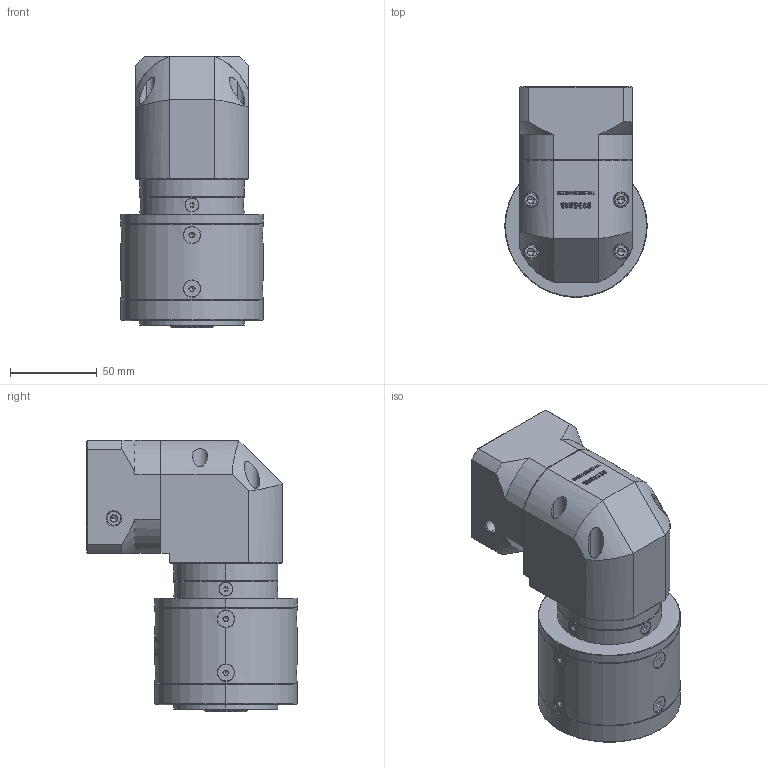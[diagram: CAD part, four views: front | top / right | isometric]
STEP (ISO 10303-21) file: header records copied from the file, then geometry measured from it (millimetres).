
FILE_DESCRIPTION (( 'STEP AP214' ), '1' );
FILE_NAME ('ZER80-K15-L2-14-60-75-M6.step', '2022-09-12T14:50:27', ( '' ), ( 'Microsoft' ), 'SwSTEP 2.0', 'SolidWorks 2016', '' );
FILE_SCHEMA (( 'AUTOMOTIVE_DESIGN' ));
Length unit declared in the file: millimetre
Products named in the file (1): ZER80-K15-L2-14-60-75-M6
Bounding box: 82 x 121.2 x 156.5 mm (x, y, z)
Volume: 756023.1 mm3; surface area: 99391 mm2
Topology: 17 solids, 18 shells, 3113 faces, 8338 edges, 5376 vertices
Faces by surface type: plane 1589, bspline 610, cylinder 533, cone 361, torus 20
Entity records: 170174 total; most frequent: CARTESIAN_POINT 63958, ORIENTED_EDGE 16572, DIRECTION 12469, EDGE_CURVE 8286, VERTEX_POINT 5376, LINE 5043, VECTOR 5043, AXIS2_PLACEMENT_3D 3713
